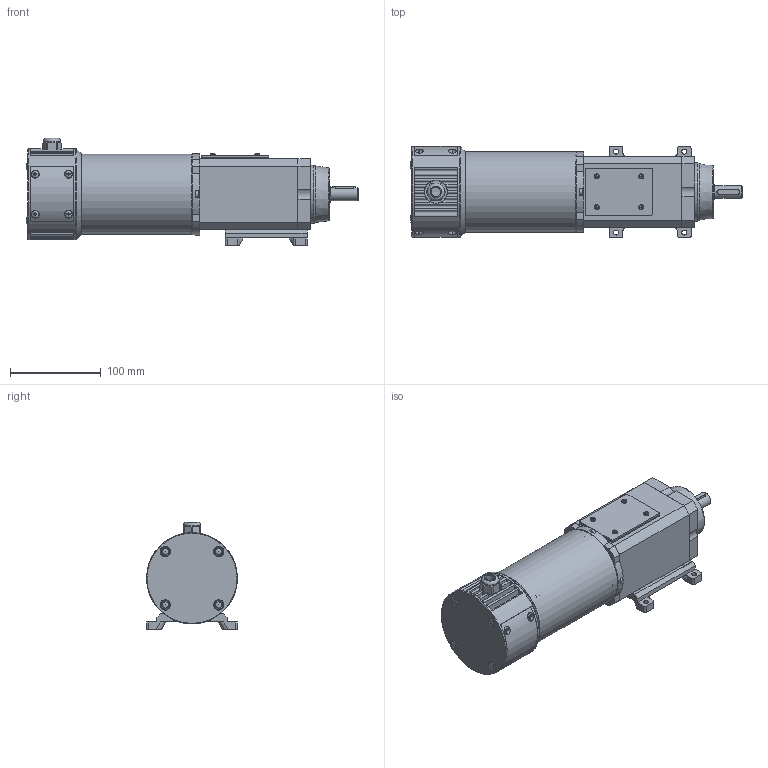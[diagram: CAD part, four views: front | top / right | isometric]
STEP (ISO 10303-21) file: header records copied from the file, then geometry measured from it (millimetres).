
FILE_DESCRIPTION(/* description */ ('Vite svasata'),/* implementation_level */ '2;1');
FILE_NAME(/* name */ 'C:\Users\giuseppe.caruso.MINIMOTOR\Desktop\PAC MP4N 10,27 B3.stp',/* time_stamp */ '2014-10-14T17:11:00+02:00',/* author */ ('giuseppe.caruso'),/* organization */ (''),/* preprocessor_version */ 'ST-DEVELOPER v15.6',/* originating_system */ 'Autodesk Inventor 2015',/* authorisation */ '');
FILE_SCHEMA (('CONFIG_CONTROL_DESIGN'));
Products named in the file (47): VSE516; VCE518; VTC306; VCE420; VTC408; VCE412; SPN010; SRD020; CPR011; CUR008-5; CUR008-4; CUR008-3; CUR008-2; CUR008-1; CUR008; ING224; CUS017-9; CUS017-8; CUS017-7; CUS017-6; CUS017-5; CUS017-4; CUS017-3; CUS017-2; CUS017-1; CUS017; CRT013; ASA017; ASF047; OR001; CHI005; CPR011Z19; GRN016; TPP009; TRG072; STT032; MGN001S; MGN001N; STT032C; CUF045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
Assembly tree (79 placements, depth 4):
  PAC MP4N 10,27 B3
    VSE516  x4
    VCE518  x4
    VTC306  x4
    VCE420  x4
    VTC408  x8
    VCE412  x8
    SPN010
    SRD020
    CPR011Z19
      CPR011
      CUR008
        CUR008-5
        CUR008-4
        CUR008-3
        CUR008-2
        CUR008-1
      ING224
      CUS017
        CUS017-9
        CUS017-8
        CUS017-7
        CUS017-6
        CUS017-5
        CUS017-4
        CUS017-3
        CUS017-2
        CUS017-1
      CRT013
      ASA017
      ASF047
      OR001
      CHI005
    GRN016
    TPP009
    TRG072
    STT032C
      STT032
      MGN001S  x2
      MGN001N  x2
    CUF045
    CUF055
    GRN025  x2
    CUF051-CSA  x2
    BOC001
    TPP008  x4
    PIE010
Bounding box: 365 x 100 x 118 mm (x, y, z)
Volume: 1033669.2 mm3; surface area: 401738.2 mm2
Topology: 82 solids, 82 shells, 2820 faces, 7169 edges, 4638 vertices
Faces by surface type: plane 1511, cylinder 827, cone 292, torus 138, bspline 28, sphere 24
Full cylindrical faces by diameter (mm): 1.6 x1, 1.7 x2, 2.1 x4, 2.459 x5, 2.5 x2, 2.6 x1, 2.729 x4, 3 x6, 3.242 x29, 3.5 x8, 4 x35, 4.134 x9, 4.2 x4, 4.5 x24, 5 x8, 5.5 x16, 6.647 x1, 6.85 x4, 7 x12, 7.5 x4, 7.6 x1, 8 x8, 8.4 x4, 8.5 x18, 9 x4, 9.64 x4, 9.85 x4, 10 x7, 12 x12, 14 x1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
Entity records: 57949 total; most frequent: CARTESIAN_POINT 12093, DIRECTION 9511, ORIENTED_EDGE 8588, EDGE_CURVE 4294, AXIS2_PLACEMENT_3D 3480, VERTEX_POINT 2988, LINE 2551, VECTOR 2551
